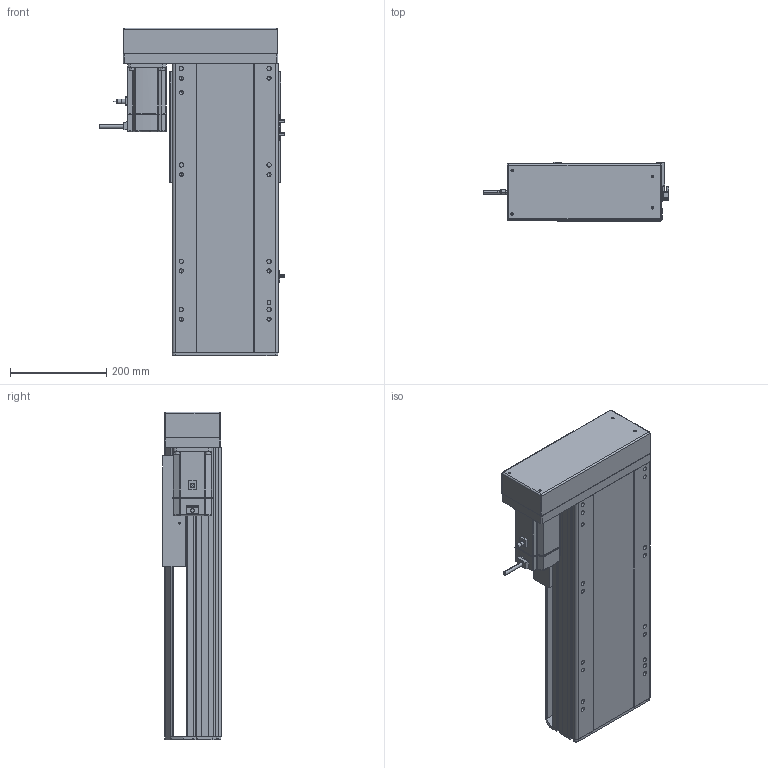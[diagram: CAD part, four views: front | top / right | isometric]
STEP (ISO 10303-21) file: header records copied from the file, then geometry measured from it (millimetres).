
FILE_DESCRIPTION (( 'STEP AP214' ), '1' );
FILE_NAME ('RTH22-XX-300-R-M75-C4.STEP', '2025-10-25T03:08:18', ( 'Microsoft' ), ( 'Microsoft' ), 'SwSTEP 2.0', 'SolidWorks 2018', '' );
FILE_SCHEMA (( 'AUTOMOTIVE_DESIGN' ));
Length unit declared in the file: millimetre
Products named in the file (10): RTH22-XX-300-R-M75-C4; N_OMRON EE-SX672 传感器^RTH22-XX-XX-R-M75-C4; N_RTH22-L-018裔赽^RTH22-XX-XX-R-M75-C4; N_RTH22-L-004-SFS25賑釱^RTH22-XX-XX-R-M75-C4; N_RTH22-GY-013外置感应片^RTH22-XX-XX-R-M75-C4; N_RTH22-R-008-P75萇儂啣^RTH22-XX-XX-R-M75-C4; N_RTH22-L-011菁釱^RTH22-XX-XX-R-M75-C4; N_RTH22-L-007奻裔^RTH22-XX-XX-R-M75-C4; N_RTH22-GY-001耜裔^RTH22-XX-XX-R-M75-C4; N_750W萇儂^RTH22-XX-XX-R-M75-C4
Assembly tree (11 placements, depth 2):
  RTH22-XX-300-R-M75-C4
    N_RTH22-L-011菁釱^RTH22-XX-XX-R-M75-C4
    N_RTH22-GY-001耜裔^RTH22-XX-XX-R-M75-C4
    N_750W萇儂^RTH22-XX-XX-R-M75-C4
    N_RTH22-R-008-P75萇儂啣^RTH22-XX-XX-R-M75-C4
    N_RTH22-L-007奻裔^RTH22-XX-XX-R-M75-C4
    N_OMRON EE-SX672 传感器^RTH22-XX-XX-R-M75-C4  x3
    N_RTH22-GY-013外置感应片^RTH22-XX-XX-R-M75-C4
    N_RTH22-L-004-SFS25賑釱^RTH22-XX-XX-R-M75-C4
    N_RTH22-L-018裔赽^RTH22-XX-XX-R-M75-C4
Bounding box: 384.7 x 122 x 679.7 mm (x, y, z)
Volume: 10747206.4 mm3; surface area: 1305767.5 mm2
Topology: 11 solids, 11 shells, 1538 faces, 4197 edges, 2713 vertices
Faces by surface type: plane 787, cylinder 426, bspline 279, cone 46
Entity records: 37993 total; most frequent: CARTESIAN_POINT 11758, ORIENTED_EDGE 5394, DIRECTION 5023, EDGE_CURVE 2697, VERTEX_POINT 1749, VECTOR 1699, LINE 1699, AXIS2_PLACEMENT_3D 1662
